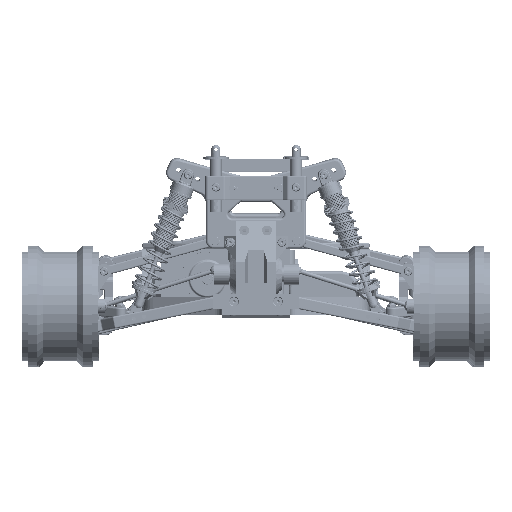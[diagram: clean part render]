
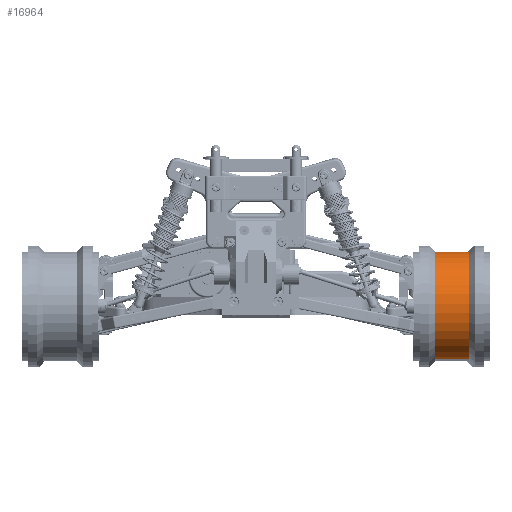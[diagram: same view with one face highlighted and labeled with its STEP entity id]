
A CAD part, left-side view. The second image highlights one B-rep face of the part: STEP entity #16964.
In plain terms, the highlighted cylindrical face has radius 36 mm (diameter 72 mm), a partial arc.
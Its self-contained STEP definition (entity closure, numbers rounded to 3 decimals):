
#16964=ADVANCED_FACE('',(#32399),#32400,.T.);
#32399=FACE_OUTER_BOUND('',#59881,.T.);
#32400=CYLINDRICAL_SURFACE('',#59882,36.0);
#59881=EDGE_LOOP('',(#102304,#102305,#102306,#102307));
#59882=AXIS2_PLACEMENT_3D('',#102308,#102309,#102310);
#102304=ORIENTED_EDGE('',*,*,#120512,.F.);
#102305=ORIENTED_EDGE('',*,*,#124609,.F.);
#102306=ORIENTED_EDGE('',*,*,#120514,.F.);
#102307=ORIENTED_EDGE('',*,*,#127919,.F.);
#102308=CARTESIAN_POINT('',(0.0,0.0,0.0));
#102309=DIRECTION('',(-0.0,1.0,0.0));
#102310=DIRECTION('',(0.0,0.0,-1.0));
#120512=EDGE_CURVE('',#132591,#143547,#143548,.T.);
#120514=EDGE_CURVE('',#143549,#132587,#143551,.T.);
#124609=EDGE_CURVE('',#132587,#132591,#149334,.T.);
#127919=EDGE_CURVE('',#143547,#143549,#153366,.T.);
#132587=VERTEX_POINT('',#162654);
#132591=VERTEX_POINT('',#162659);
#143547=VERTEX_POINT('',#196776);
#143548=LINE('',#196777,#196778);
#143549=VERTEX_POINT('',#196779);
#143551=LINE('',#196781,#196782);
#149334=CIRCLE('',#214972,36.0);
#153366=CIRCLE('',#226337,36.0);
#162654=CARTESIAN_POINT('',(0.,-19.0,36.0));
#162659=CARTESIAN_POINT('',(0.0,-19.0,-36.0));
#196776=CARTESIAN_POINT('',(0.,3.0,-36.0));
#196777=CARTESIAN_POINT('',(0.,0.0,-36.0));
#196778=VECTOR('',#241252,1.0);
#196779=CARTESIAN_POINT('',(0.0,3.0,36.0));
#196781=CARTESIAN_POINT('',(0.,0.0,36.0));
#196782=VECTOR('',#241256,1.0);
#214972=AXIS2_PLACEMENT_3D('',#246479,#246480,#246481);
#226337=AXIS2_PLACEMENT_3D('',#250040,#250041,#250042);
#241252=DIRECTION('',(-0.0,1.0,0.0));
#241256=DIRECTION('',(-0.0,-1.0,0.0));
#246479=CARTESIAN_POINT('',(0.0,-19.0,0.0));
#246480=DIRECTION('',(0.0,-1.0,0.0));
#246481=DIRECTION('',(0.0,0.0,-1.0));
#250040=CARTESIAN_POINT('',(0.0,3.0,0.0));
#250041=DIRECTION('',(0.0,1.0,0.0));
#250042=DIRECTION('',(0.0,0.0,1.0));
